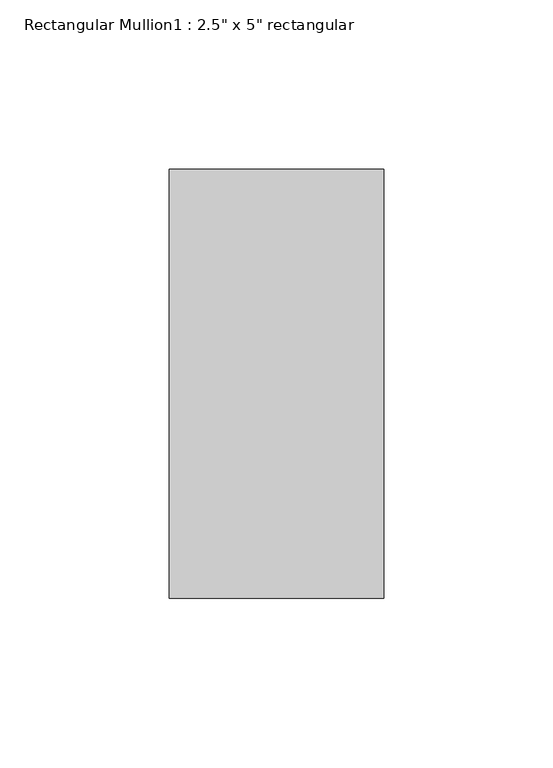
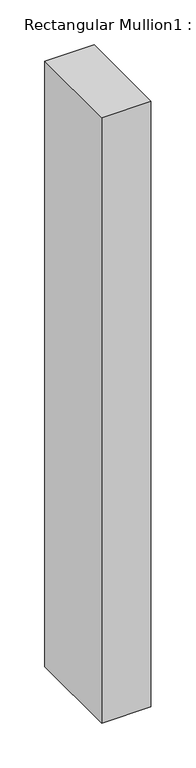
"""IFC4 building model written with IfcOpenShell, lengths in millimetres: member geometry."""

from ifc_helpers import new_model, si_unit, frame, origin, place, context, project, spatial, polyline, outline, extrude, source, transform, mapped, element, save


def member_74aba05d(model_context):
    return source(origin(), model_context, "Body", "SweptSolid", [
        extrude(outline(polyline([(31.75, 63.5), (31.75, -63.5), (-31.75, -63.5), (-31.75, 63.5), (31.75, 63.5)])), frame((0.0, 0.0, -825.5), z_axis=(0.0, 0.0, 1.0), x_axis=(1.0, 0.0, 0.0)), (0.0, 0.0, 1.0), 825.5),
    ])


if __name__ == "__main__":
    model = new_model("IFC4")
    model_context = context("Model", 3, world=origin())
    ifc_project = project(units=[si_unit("LENGTHUNIT", "METRE", prefix="MILLI")], contexts=[model_context])
    site = spatial("IfcSite", under=ifc_project)
    building = spatial("IfcBuilding", under=site)
    placement = place(None, origin())
    member_shape = member_74aba05d(model_context)
    element("IfcMember", 1, ObjectType="Rectangular Mullion1 : 2.5\" x 5\" rectangular", at=placement, inside=building, context=model_context, shape_type="MappedRepresentation", body=[
        mapped(member_shape, transform((0.0, 0.0, 0.0), x_axis=(1.0, 0.0, 0.0), y_axis=(0.0, 1.0, 0.0), z_axis=(0.0, 0.0, 1.0))),
    ])
    save(model, "model.ifc")
